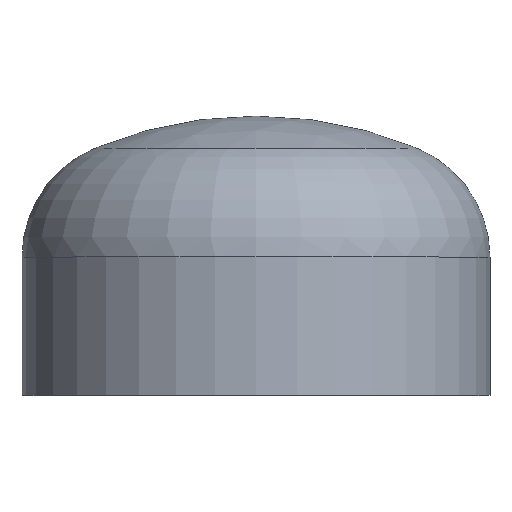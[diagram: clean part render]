
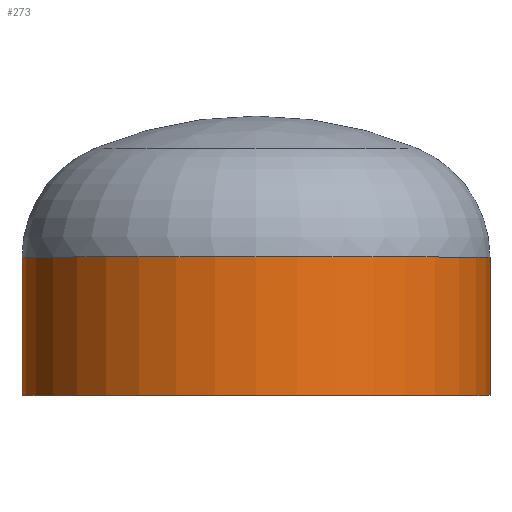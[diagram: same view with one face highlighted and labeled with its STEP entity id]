
A CAD part, top view. The second image highlights one B-rep face of the part: STEP entity #273.
In plain terms, the highlighted cylindrical face has radius 254 mm (diameter 508 mm), a partial arc.
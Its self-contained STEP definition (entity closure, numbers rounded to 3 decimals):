
#18 = VERTEX_POINT ( 'NONE', #361 ) ;
#27 = ORIENTED_EDGE ( 'NONE', *, *, #183, .T. ) ;
#28 = CARTESIAN_POINT ( 'NONE',  ( 0., 0., 0. ) ) ;
#32 = AXIS2_PLACEMENT_3D ( 'NONE', #334, #239, #393 ) ;
#34 = VERTEX_POINT ( 'NONE', #259 ) ;
#58 = ORIENTED_EDGE ( 'NONE', *, *, #385, .T. ) ;
#62 = VERTEX_POINT ( 'NONE', #257 ) ;
#68 = ORIENTED_EDGE ( 'NONE', *, *, #228, .F. ) ;
#90 = EDGE_LOOP ( 'NONE', ( #58, #27, #111, #68 ) ) ;
#100 = VECTOR ( 'NONE', #330, 1000. ) ;
#111 = ORIENTED_EDGE ( 'NONE', *, *, #407, .F. ) ;
#114 = AXIS2_PLACEMENT_3D ( 'NONE', #28, #199, #254 ) ;
#148 = DIRECTION ( 'NONE',  ( 1., 0., 0. ) ) ;
#169 = VECTOR ( 'NONE', #180, 1000. ) ;
#180 = DIRECTION ( 'NONE',  ( 0., -1., 0. ) ) ;
#183 = EDGE_CURVE ( 'NONE', #62, #34, #381, .T. ) ;
#190 = CIRCLE ( 'NONE', #382, 254. ) ;
#199 = DIRECTION ( 'NONE',  ( 0., -1., 0. ) ) ;
#200 = CARTESIAN_POINT ( 'NONE',  ( -254., 0., 0. ) ) ;
#228 = EDGE_CURVE ( 'NONE', #18, #396, #243, .T. ) ;
#238 = CARTESIAN_POINT ( 'NONE',  ( 0., 0., 0. ) ) ;
#239 = DIRECTION ( 'NONE',  ( 0., -1., 0. ) ) ;
#243 = LINE ( 'NONE', #252, #169 ) ;
#252 = CARTESIAN_POINT ( 'NONE',  ( 254., 0., 0. ) ) ;
#254 = DIRECTION ( 'NONE',  ( 1., 0., 0. ) ) ;
#257 = CARTESIAN_POINT ( 'NONE',  ( -254., 150., 0. ) ) ;
#259 = CARTESIAN_POINT ( 'NONE',  ( -254., 0., 0. ) ) ;
#273 = ADVANCED_FACE ( 'NONE', ( #403 ), #291, .T. ) ;
#291 = CYLINDRICAL_SURFACE ( 'NONE', #114, 254. ) ;
#303 = DIRECTION ( 'NONE',  ( 0., -1., 0. ) ) ;
#309 = CARTESIAN_POINT ( 'NONE',  ( 254., 0., 0. ) ) ;
#330 = DIRECTION ( 'NONE',  ( 0., -1., 0. ) ) ;
#334 = CARTESIAN_POINT ( 'NONE',  ( 0., 150., 0. ) ) ;
#361 = CARTESIAN_POINT ( 'NONE',  ( 254., 150., 0. ) ) ;
#377 = CIRCLE ( 'NONE', #32, 254. ) ;
#381 = LINE ( 'NONE', #200, #100 ) ;
#382 = AXIS2_PLACEMENT_3D ( 'NONE', #238, #303, #148 ) ;
#385 = EDGE_CURVE ( 'NONE', #18, #62, #377, .T. ) ;
#393 = DIRECTION ( 'NONE',  ( 1., 0., 0. ) ) ;
#396 = VERTEX_POINT ( 'NONE', #309 ) ;
#403 = FACE_OUTER_BOUND ( 'NONE', #90, .T. ) ;
#407 = EDGE_CURVE ( 'NONE', #396, #34, #190, .T. ) ;
